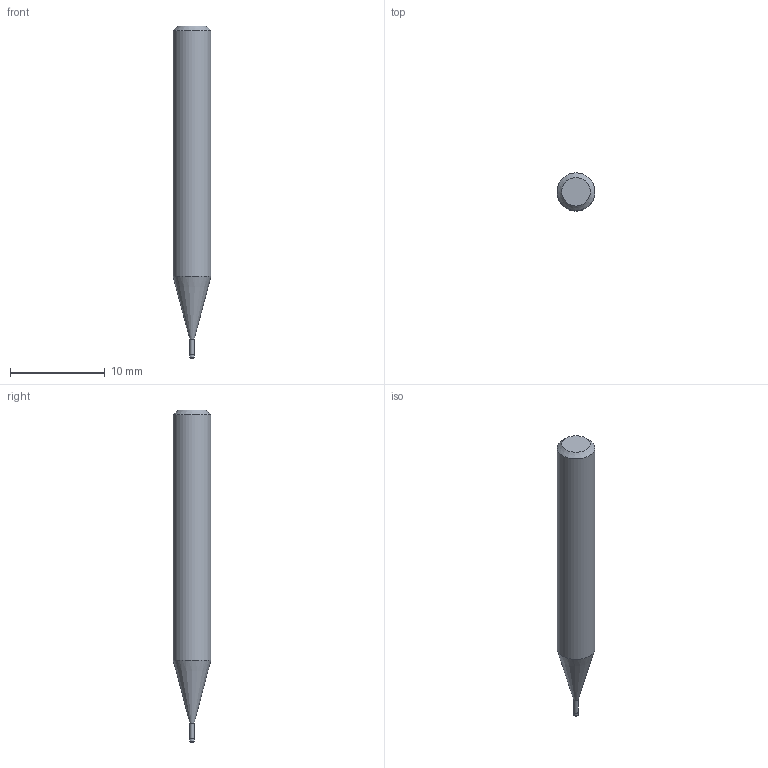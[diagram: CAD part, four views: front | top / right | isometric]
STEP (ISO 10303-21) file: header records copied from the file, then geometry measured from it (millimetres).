
FILE_DESCRIPTION((''),'2;1');
FILE_NAME('C:\Users\nsx150\AppData\Local\Temp\Mastercam 2021\80JYEHYUML\TEMP.step','2022-03-29T14:35:23',(''),(''),'STEP Write','Mastercam 2021 ... CNC Software, Inc.','');
FILE_SCHEMA(('AUTOMOTIVE_DESIGN'));
Length unit declared in the file: millimetre
Products named in the file (1): None
Bounding box: 4 x 4 x 35 mm (x, y, z)
Volume: 361.8 mm3; surface area: 391.6 mm2
Topology: 2 solids, 2 shells, 10 faces, 14 edges, 8 vertices
Faces by surface type: plane 4, cylinder 3, cone 2, torus 1
Full cylindrical faces by diameter (mm): 0.46 x1, 0.5 x1, 4 x1
Entity records: 232 total; most frequent: DIRECTION 40, CARTESIAN_POINT 28, AXIS2_PLACEMENT_3D 20, ORIENTED_EDGE 16, EDGE_LOOP 16, STYLED_ITEM 13, ADVANCED_FACE 10, FACE_BOUND 10
